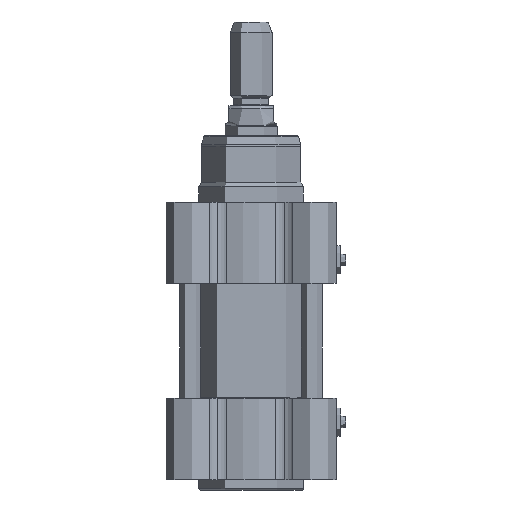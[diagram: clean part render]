
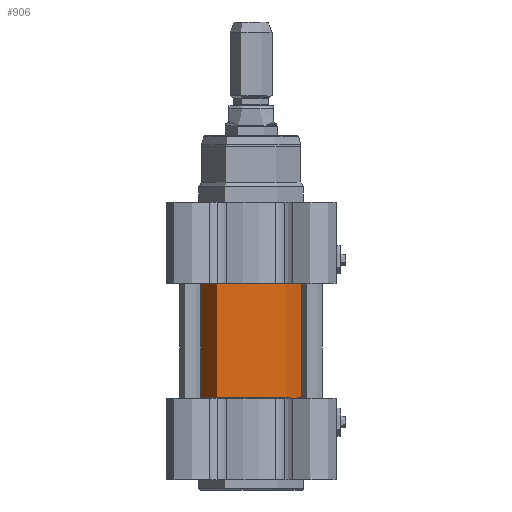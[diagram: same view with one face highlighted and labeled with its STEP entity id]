
A CAD part, front view. The second image highlights one B-rep face of the part: STEP entity #906.
In plain terms, the highlighted cylindrical face has radius 26.5 mm (diameter 53 mm), a partial arc.
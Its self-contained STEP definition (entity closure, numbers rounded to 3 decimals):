
#906=ADVANCED_FACE('',(#2410),#2411,.T.);
#2410=FACE_OUTER_BOUND('',#4632,.T.);
#2411=CYLINDRICAL_SURFACE('',#4633,26.5);
#4632=EDGE_LOOP('',(#6872,#6873,#6874,#6875));
#4633=AXIS2_PLACEMENT_3D('',#6876,#6877,#6878);
#6872=ORIENTED_EDGE('',*,*,#13133,.F.);
#6873=ORIENTED_EDGE('',*,*,#13134,.F.);
#6874=ORIENTED_EDGE('',*,*,#13135,.F.);
#6875=ORIENTED_EDGE('',*,*,#13136,.F.);
#6876=CARTESIAN_POINT('',(0.0,0.0,0.0));
#6877=DIRECTION('',(-0.0,0.0,-1.0));
#6878=DIRECTION('',(-1.0,0.0,0.0));
#13133=EDGE_CURVE('',#15466,#15458,#15467,.T.);
#13134=EDGE_CURVE('0:56',#15468,#15466,#15469,.T.);
#13135=EDGE_CURVE('',#15462,#15468,#15470,.T.);
#13136=EDGE_CURVE('',#15458,#15462,#15471,.T.);
#15458=VERTEX_POINT('',#18761);
#15462=VERTEX_POINT('',#18766);
#15466=VERTEX_POINT('',#18771);
#15467=LINE('',#18772,#18773);
#15468=VERTEX_POINT('',#18774);
#15469=CIRCLE('',#18775,26.5);
#15470=LINE('',#18776,#18777);
#15471=CIRCLE('',#18778,26.5);
#18761=CARTESIAN_POINT('',(-26.5,0.,43.8));
#18766=CARTESIAN_POINT('',(26.5,0.,43.8));
#18771=CARTESIAN_POINT('',(-26.5,0.,0.2));
#18772=CARTESIAN_POINT('',(-26.5,0.,22.0));
#18773=VECTOR('',#23714,1.0);
#18774=CARTESIAN_POINT('',(26.5,0.,0.2));
#18775=AXIS2_PLACEMENT_3D('',#23715,#23716,#23717);
#18776=CARTESIAN_POINT('',(26.5,0.,22.0));
#18777=VECTOR('',#23718,1.0);
#18778=AXIS2_PLACEMENT_3D('',#23719,#23720,#23721);
#23714=DIRECTION('',(-0.0,-0.0,1.0));
#23715=CARTESIAN_POINT('',(0.0,0.0,0.2));
#23716=DIRECTION('',(0.0,0.0,-1.0));
#23717=DIRECTION('',(-1.0,0.0,0.0));
#23718=DIRECTION('',(-0.0,-0.0,-1.0));
#23719=CARTESIAN_POINT('',(0.0,0.0,43.8));
#23720=DIRECTION('',(0.0,0.0,1.0));
#23721=DIRECTION('',(-1.0,0.0,0.0));
